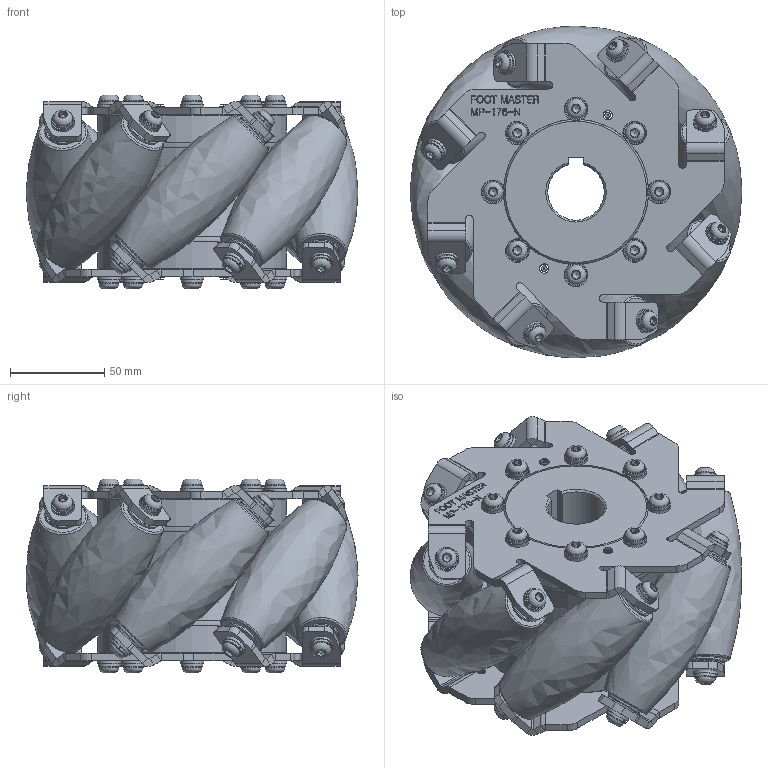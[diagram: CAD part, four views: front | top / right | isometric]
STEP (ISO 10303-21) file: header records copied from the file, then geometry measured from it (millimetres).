
FILE_DESCRIPTION(/* description */ (''),/* implementation_level */ '2;1');
FILE_NAME(/* name */ 'Y:\1.기술연구소\2.연구개발 진행중\122.Mecanum Wheel_2024.11.22\MECHANUM WHEEL MDWP-176-90\04. 전송파일\영업부\20250904\MP-176-N-HUD.stp',/* time_stamp */ '2025-09-05T11:32:42+09:00',/* author */ ('장용하'),/* organization */ (''),/* preprocessor_version */ 'ST-DEVELOPER v18.1',/* originating_system */ 'Autodesk Inventor 2021',/* authorisation */ '');
FILE_SCHEMA (('AUTOMOTIVE_DESIGN { 1 0 10303 214 3 1 1 }'));
Products named in the file (1): MP-176-N-HUD
Bounding box: 176 x 176 x 102.8 mm (x, y, z)
Volume: 1416287.5 mm3; surface area: 206650.1 mm2
Topology: 1 solids, 1 shells, 2123 faces, 5817 edges, 3816 vertices
Faces by surface type: plane 1001, bspline 616, cylinder 393, torus 67, cone 46
Full cylindrical faces by diameter (mm): 5 x4, 6 x32, 6.3 x16, 6.6 x32, 10.5 x32, 12.5 x32, 13.8 x16, 19 x16, 77 x2, 100 x2
Entity records: 69331 total; most frequent: CARTESIAN_POINT 18657, ORIENTED_EDGE 11562, DIRECTION 9128, EDGE_CURVE 5781, VERTEX_POINT 3816, AXIS2_PLACEMENT_3D 3251, LINE 2626, VECTOR 2626
